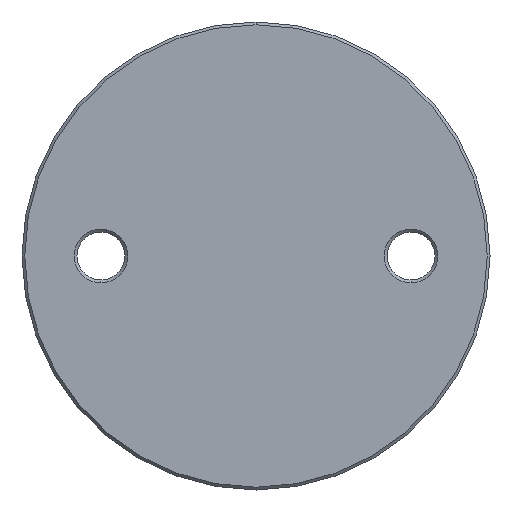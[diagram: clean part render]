
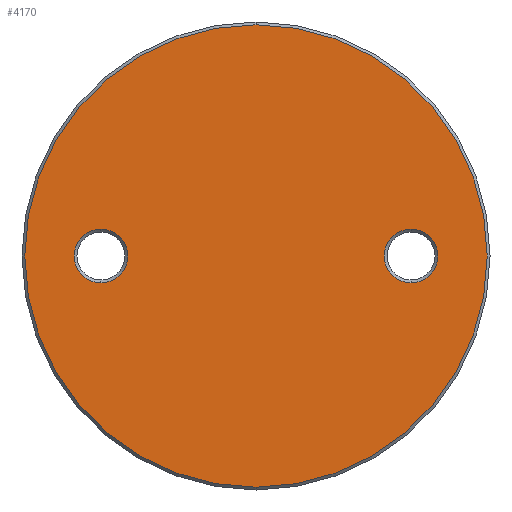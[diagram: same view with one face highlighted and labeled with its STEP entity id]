
A CAD part, front view. The second image highlights one B-rep face of the part: STEP entity #4170.
In plain terms, the highlighted planar face has unit normal (0, -1, 0).
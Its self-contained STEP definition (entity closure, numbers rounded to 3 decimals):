
#86 = VERTEX_POINT ( 'NONE', #2896 ) ;
#89 = EDGE_CURVE ( 'NONE', #644, #166, #330, .T. ) ;
#99 = PLANE ( 'NONE',  #2548 ) ;
#127 = DIRECTION ( 'NONE',  ( 0., 0., -1. ) ) ;
#154 = EDGE_CURVE ( 'NONE', #4112, #985, #907, .T. ) ;
#166 = VERTEX_POINT ( 'NONE', #2240 ) ;
#235 = ORIENTED_EDGE ( 'NONE', *, *, #1311, .T. ) ;
#242 = VERTEX_POINT ( 'NONE', #1728 ) ;
#302 = EDGE_LOOP ( 'NONE', ( #3199, #1546 ) ) ;
#330 = CIRCLE ( 'NONE', #4282, 4.75 ) ;
#332 = DIRECTION ( 'NONE',  ( 0., 0., -1. ) ) ;
#359 = DIRECTION ( 'NONE',  ( 0., 0., -1. ) ) ;
#462 = DIRECTION ( 'NONE',  ( 0., -1., 0. ) ) ;
#476 = CARTESIAN_POINT ( 'NONE',  ( 0., -3., 41.5 ) ) ;
#644 = VERTEX_POINT ( 'NONE', #2756 ) ;
#686 = DIRECTION ( 'NONE',  ( 0., 1., 0. ) ) ;
#746 = CIRCLE ( 'NONE', #3900, 41. ) ;
#753 = CARTESIAN_POINT ( 'NONE',  ( 0., -3., 0. ) ) ;
#830 = DIRECTION ( 'NONE',  ( 0., -1., 0. ) ) ;
#838 = CARTESIAN_POINT ( 'NONE',  ( -27.5, -3., -4.75 ) ) ;
#907 = CIRCLE ( 'NONE', #1810, 4.75 ) ;
#915 = DIRECTION ( 'NONE',  ( 0., 1., 0. ) ) ;
#935 = EDGE_LOOP ( 'NONE', ( #4305, #235 ) ) ;
#968 = CIRCLE ( 'NONE', #3642, 41. ) ;
#985 = VERTEX_POINT ( 'NONE', #838 ) ;
#1103 = DIRECTION ( 'NONE',  ( 0., 0., -1. ) ) ;
#1233 = CIRCLE ( 'NONE', #1976, 4.75 ) ;
#1308 = FACE_BOUND ( 'NONE', #935, .T. ) ;
#1311 = EDGE_CURVE ( 'NONE', #166, #644, #1233, .T. ) ;
#1331 = CARTESIAN_POINT ( 'NONE',  ( 27.5, -3., 0. ) ) ;
#1546 = ORIENTED_EDGE ( 'NONE', *, *, #154, .T. ) ;
#1593 = DIRECTION ( 'NONE',  ( 0., 0., -1. ) ) ;
#1728 = CARTESIAN_POINT ( 'NONE',  ( 0., -3., 41. ) ) ;
#1810 = AXIS2_PLACEMENT_3D ( 'NONE', #4405, #3702, #1103 ) ;
#1883 = EDGE_LOOP ( 'NONE', ( #3584, #4028 ) ) ;
#1954 = CIRCLE ( 'NONE', #3809, 4.75 ) ;
#1976 = AXIS2_PLACEMENT_3D ( 'NONE', #1331, #915, #3476 ) ;
#2166 = CARTESIAN_POINT ( 'NONE',  ( -27.5, -3., 0. ) ) ;
#2240 = CARTESIAN_POINT ( 'NONE',  ( 27.5, -3., 4.75 ) ) ;
#2264 = CARTESIAN_POINT ( 'NONE',  ( -27.5, -3., 4.75 ) ) ;
#2294 = FACE_OUTER_BOUND ( 'NONE', #1883, .T. ) ;
#2548 = AXIS2_PLACEMENT_3D ( 'NONE', #476, #462, #1593 ) ;
#2550 = CARTESIAN_POINT ( 'NONE',  ( 27.5, -3., 0. ) ) ;
#2752 = FACE_BOUND ( 'NONE', #302, .T. ) ;
#2756 = CARTESIAN_POINT ( 'NONE',  ( 27.5, -3., -4.75 ) ) ;
#2896 = CARTESIAN_POINT ( 'NONE',  ( 0., -3., -41. ) ) ;
#3199 = ORIENTED_EDGE ( 'NONE', *, *, #3222, .T. ) ;
#3222 = EDGE_CURVE ( 'NONE', #985, #4112, #1954, .T. ) ;
#3476 = DIRECTION ( 'NONE',  ( 0., 0., -1. ) ) ;
#3489 = EDGE_CURVE ( 'NONE', #86, #242, #968, .T. ) ;
#3584 = ORIENTED_EDGE ( 'NONE', *, *, #3620, .T. ) ;
#3620 = EDGE_CURVE ( 'NONE', #242, #86, #746, .T. ) ;
#3642 = AXIS2_PLACEMENT_3D ( 'NONE', #753, #3682, #4042 ) ;
#3682 = DIRECTION ( 'NONE',  ( 0., -1., 0. ) ) ;
#3702 = DIRECTION ( 'NONE',  ( 0., 1., 0. ) ) ;
#3809 = AXIS2_PLACEMENT_3D ( 'NONE', #2166, #686, #332 ) ;
#3900 = AXIS2_PLACEMENT_3D ( 'NONE', #4488, #830, #127 ) ;
#4028 = ORIENTED_EDGE ( 'NONE', *, *, #3489, .T. ) ;
#4042 = DIRECTION ( 'NONE',  ( 0., 0., -1. ) ) ;
#4112 = VERTEX_POINT ( 'NONE', #2264 ) ;
#4170 = ADVANCED_FACE ( 'NONE', ( #1308, #2752, #2294 ), #99, .T. ) ;
#4282 = AXIS2_PLACEMENT_3D ( 'NONE', #2550, #4767, #359 ) ;
#4305 = ORIENTED_EDGE ( 'NONE', *, *, #89, .T. ) ;
#4405 = CARTESIAN_POINT ( 'NONE',  ( -27.5, -3., 0. ) ) ;
#4488 = CARTESIAN_POINT ( 'NONE',  ( 0., -3., 0. ) ) ;
#4767 = DIRECTION ( 'NONE',  ( 0., 1., 0. ) ) ;
